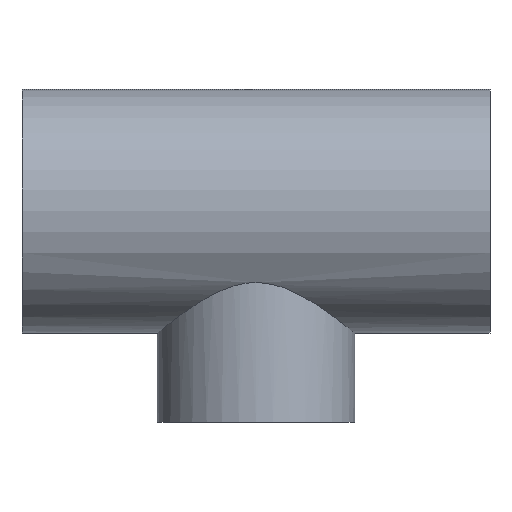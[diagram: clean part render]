
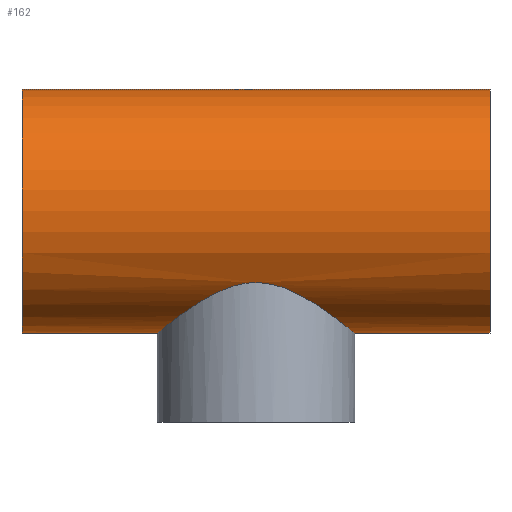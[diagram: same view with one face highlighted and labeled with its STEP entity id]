
A CAD part, top view. The second image highlights one B-rep face of the part: STEP entity #162.
In plain terms, the highlighted cylindrical face has radius 37 mm (diameter 74 mm), a full revolution.
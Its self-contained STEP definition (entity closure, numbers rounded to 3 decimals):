
#16=B_SPLINE_CURVE_WITH_KNOTS('',3,(#344,#345,#346,#347,#348,#349,#350,
#351,#352,#353,#354,#355,#356,#357,#358,#359,#360,#361,#362,#363,#364,#365,
#366,#367,#368,#369,#370,#371,#372,#373,#374,#375,#376,#377,#378,#379,#380,
#381,#382,#383,#384,#385,#386,#387,#388,#389,#390,#391,#392,#393,#394,#395,
#396,#397,#398,#399,#400,#401,#402,#403,#404,#405,#406,#407,#408,#409),
 .UNSPECIFIED.,.T.,.F.,(4,2,2,2,2,2,2,2,2,2,2,2,2,2,2,2,2,2,2,2,2,2,2,2,
2,2,2,2,2,2,2,2,4),(0.,0.618,1.236,1.854,
2.472,3.069,3.667,4.264,4.861,
5.458,6.055,6.652,7.249,7.867,
8.485,9.103,9.722,10.34,10.958,
11.576,12.194,12.791,13.388,13.985,
14.582,15.179,15.777,16.374,16.971,
17.589,18.207,18.825,19.443),
 .UNSPECIFIED.);
#32=FACE_BOUND('',#69,.T.);
#33=FACE_BOUND('',#70,.T.);
#46=FACE_OUTER_BOUND('',#68,.T.);
#68=EDGE_LOOP('',(#136));
#69=EDGE_LOOP('',(#137));
#70=EDGE_LOOP('',(#138));
#88=CIRCLE('',#187,37.);
#89=CIRCLE('',#188,37.);
#101=VERTEX_POINT('',#341);
#102=VERTEX_POINT('',#343);
#103=VERTEX_POINT('',#410);
#115=EDGE_CURVE('',#101,#101,#88,.T.);
#116=EDGE_CURVE('',#102,#102,#16,.T.);
#117=EDGE_CURVE('',#103,#103,#89,.T.);
#136=ORIENTED_EDGE('',*,*,#115,.F.);
#137=ORIENTED_EDGE('',*,*,#116,.T.);
#138=ORIENTED_EDGE('',*,*,#117,.F.);
#152=CYLINDRICAL_SURFACE('',#186,37.);
#162=ADVANCED_FACE('',(#46,#32,#33),#152,.T.);
#186=AXIS2_PLACEMENT_3D('',#340,#230,#231);
#187=AXIS2_PLACEMENT_3D('',#342,#232,#233);
#188=AXIS2_PLACEMENT_3D('',#411,#234,#235);
#230=DIRECTION('center_axis',(1.,0.,0.));
#231=DIRECTION('ref_axis',(0.,-1.,0.));
#232=DIRECTION('center_axis',(-1.,0.,0.));
#233=DIRECTION('ref_axis',(0.,-1.,0.));
#234=DIRECTION('center_axis',(1.,0.,0.));
#235=DIRECTION('ref_axis',(0.,-1.,0.));
#340=CARTESIAN_POINT('Origin',(0.,0.,0.));
#341=CARTESIAN_POINT('',(-71.,37.,0.));
#342=CARTESIAN_POINT('Origin',(-71.,0.,0.));
#343=CARTESIAN_POINT('',(0.,-21.656,30.));
#344=CARTESIAN_POINT('Ctrl Pts',(0.,-21.656,
30.));
#345=CARTESIAN_POINT('Ctrl Pts',(2.06,-21.656,30.));
#346=CARTESIAN_POINT('Ctrl Pts',(4.096,-21.959,29.787));
#347=CARTESIAN_POINT('Ctrl Pts',(8.034,-23.021,28.974));
#348=CARTESIAN_POINT('Ctrl Pts',(9.938,-23.775,28.374));
#349=CARTESIAN_POINT('Ctrl Pts',(13.553,-25.498,26.836));
#350=CARTESIAN_POINT('Ctrl Pts',(15.267,-26.467,25.896));
#351=CARTESIAN_POINT('Ctrl Pts',(18.444,-28.419,23.738));
#352=CARTESIAN_POINT('Ctrl Pts',(19.907,-29.401,22.519));
#353=CARTESIAN_POINT('Ctrl Pts',(22.475,-31.198,19.952));
#354=CARTESIAN_POINT('Ctrl Pts',(23.683,-32.084,18.516));
#355=CARTESIAN_POINT('Ctrl Pts',(25.85,-33.715,15.345));
#356=CARTESIAN_POINT('Ctrl Pts',(26.81,-34.46,13.61));
#357=CARTESIAN_POINT('Ctrl Pts',(28.378,-35.694,9.935));
#358=CARTESIAN_POINT('Ctrl Pts',(28.987,-36.183,7.99));
#359=CARTESIAN_POINT('Ctrl Pts',(29.799,-36.836,4.018));
#360=CARTESIAN_POINT('Ctrl Pts',(30.,-37.,1.99));
#361=CARTESIAN_POINT('Ctrl Pts',(30.,-37.,-1.99));
#362=CARTESIAN_POINT('Ctrl Pts',(29.799,-36.836,-4.018));
#363=CARTESIAN_POINT('Ctrl Pts',(28.987,-36.183,-7.99));
#364=CARTESIAN_POINT('Ctrl Pts',(28.378,-35.694,-9.935));
#365=CARTESIAN_POINT('Ctrl Pts',(26.81,-34.46,-13.61));
#366=CARTESIAN_POINT('Ctrl Pts',(25.85,-33.715,-15.345));
#367=CARTESIAN_POINT('Ctrl Pts',(23.683,-32.084,-18.516));
#368=CARTESIAN_POINT('Ctrl Pts',(22.475,-31.198,-19.952));
#369=CARTESIAN_POINT('Ctrl Pts',(19.907,-29.401,-22.519));
#370=CARTESIAN_POINT('Ctrl Pts',(18.444,-28.419,-23.738));
#371=CARTESIAN_POINT('Ctrl Pts',(15.267,-26.467,-25.896));
#372=CARTESIAN_POINT('Ctrl Pts',(13.553,-25.498,-26.836));
#373=CARTESIAN_POINT('Ctrl Pts',(9.938,-23.775,-28.374));
#374=CARTESIAN_POINT('Ctrl Pts',(8.034,-23.021,-28.974));
#375=CARTESIAN_POINT('Ctrl Pts',(4.096,-21.959,-29.787));
#376=CARTESIAN_POINT('Ctrl Pts',(2.06,-21.656,-30.));
#377=CARTESIAN_POINT('Ctrl Pts',(-2.06,-21.656,-30.));
#378=CARTESIAN_POINT('Ctrl Pts',(-4.096,-21.959,-29.787));
#379=CARTESIAN_POINT('Ctrl Pts',(-8.034,-23.021,-28.974));
#380=CARTESIAN_POINT('Ctrl Pts',(-9.938,-23.775,-28.374));
#381=CARTESIAN_POINT('Ctrl Pts',(-13.553,-25.498,-26.836));
#382=CARTESIAN_POINT('Ctrl Pts',(-15.267,-26.467,-25.896));
#383=CARTESIAN_POINT('Ctrl Pts',(-18.444,-28.419,-23.738));
#384=CARTESIAN_POINT('Ctrl Pts',(-19.907,-29.401,-22.519));
#385=CARTESIAN_POINT('Ctrl Pts',(-22.475,-31.198,-19.952));
#386=CARTESIAN_POINT('Ctrl Pts',(-23.683,-32.084,-18.516));
#387=CARTESIAN_POINT('Ctrl Pts',(-25.85,-33.715,-15.345));
#388=CARTESIAN_POINT('Ctrl Pts',(-26.81,-34.46,-13.61));
#389=CARTESIAN_POINT('Ctrl Pts',(-28.378,-35.694,-9.935));
#390=CARTESIAN_POINT('Ctrl Pts',(-28.987,-36.183,-7.99));
#391=CARTESIAN_POINT('Ctrl Pts',(-29.799,-36.836,-4.018));
#392=CARTESIAN_POINT('Ctrl Pts',(-30.,-37.,-1.99));
#393=CARTESIAN_POINT('Ctrl Pts',(-30.,-37.,1.99));
#394=CARTESIAN_POINT('Ctrl Pts',(-29.799,-36.836,4.018));
#395=CARTESIAN_POINT('Ctrl Pts',(-28.987,-36.183,7.99));
#396=CARTESIAN_POINT('Ctrl Pts',(-28.378,-35.694,9.935));
#397=CARTESIAN_POINT('Ctrl Pts',(-26.81,-34.46,13.61));
#398=CARTESIAN_POINT('Ctrl Pts',(-25.85,-33.715,15.345));
#399=CARTESIAN_POINT('Ctrl Pts',(-23.683,-32.084,18.516));
#400=CARTESIAN_POINT('Ctrl Pts',(-22.475,-31.198,19.952));
#401=CARTESIAN_POINT('Ctrl Pts',(-19.907,-29.401,22.519));
#402=CARTESIAN_POINT('Ctrl Pts',(-18.444,-28.419,23.738));
#403=CARTESIAN_POINT('Ctrl Pts',(-15.267,-26.467,25.896));
#404=CARTESIAN_POINT('Ctrl Pts',(-13.553,-25.498,26.836));
#405=CARTESIAN_POINT('Ctrl Pts',(-9.938,-23.775,28.374));
#406=CARTESIAN_POINT('Ctrl Pts',(-8.034,-23.021,28.974));
#407=CARTESIAN_POINT('Ctrl Pts',(-4.096,-21.959,29.787));
#408=CARTESIAN_POINT('Ctrl Pts',(-2.06,-21.656,30.));
#409=CARTESIAN_POINT('Ctrl Pts',(0.,-21.656,
30.));
#410=CARTESIAN_POINT('',(71.,37.,0.));
#411=CARTESIAN_POINT('Origin',(71.,0.,0.));
